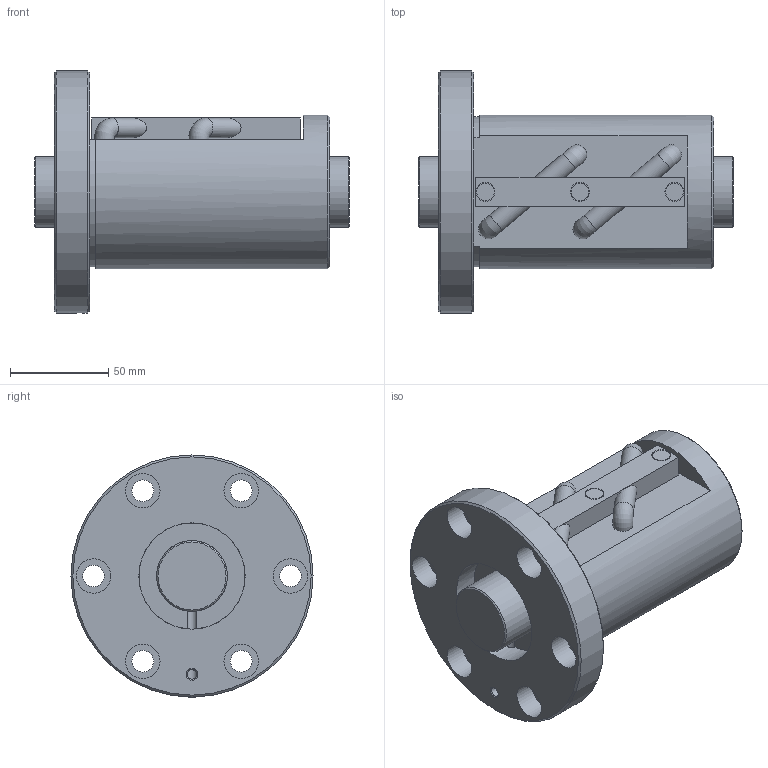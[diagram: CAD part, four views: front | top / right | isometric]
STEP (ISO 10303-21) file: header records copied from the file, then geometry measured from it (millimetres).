
FILE_DESCRIPTION(/* description */ ('STEP AP203'),/* implementation_level */ '2;1');
FILE_NAME(/* name */ 'BIF3612V-7RRG0+160LC0_000',/* time_stamp */ '2024-07-15T08:23:54+02:00',/* author */ ('License CC BY-ND 4.0'),/* organization */ ('CADENAS'),/* preprocessor_version */ 'ST-DEVELOPER v19.3',/* originating_system */ 'PARTsolutions',/* authorisation */ ' ');
FILE_SCHEMA (('CONFIG_CONTROL_DESIGN'));
Length unit declared in the file: millimetre
Products named in the file (3): BIF3612V-7RRG0+160LC0_000; BIF3612V-7RR000 Shaft; BIF3612V-7RR Nut
Assembly tree (2 placements, depth 2):
  BIF3612V-7RRG0+160LC0_000
    BIF3612V-7RR000 Shaft
    BIF3612V-7RR Nut
Bounding box: 160 x 123 x 123 mm (x, y, z)
Volume: 734466.5 mm3; surface area: 105978.2 mm2
Topology: 2 solids, 2 shells, 88 faces, 200 edges, 128 vertices
Faces by surface type: plane 41, cylinder 36, cone 7, torus 4
Full cylindrical faces by diameter (mm): 4.917 x1, 5 x2, 9 x3, 9.6 x3, 10.1 x4, 11 x6, 17.5 x6, 36 x2, 54 x2, 78 x1, 123 x1
Entity records: 2386 total; most frequent: CARTESIAN_POINT 454, DIRECTION 420, ORIENTED_EDGE 296, AXIS2_PLACEMENT_3D 192, EDGE_LOOP 163, FACE_BOUND 163, EDGE_CURVE 148, VERTEX_POINT 115
